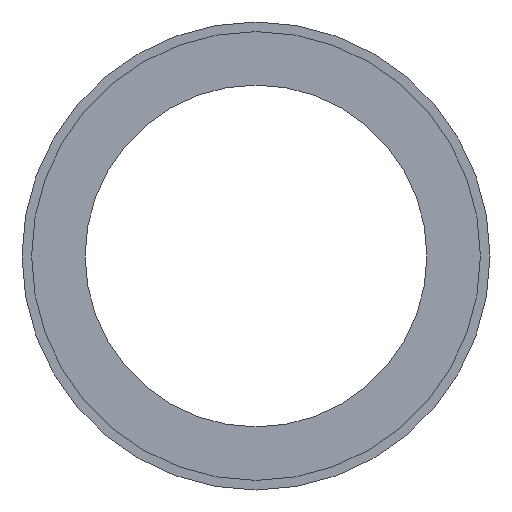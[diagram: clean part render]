
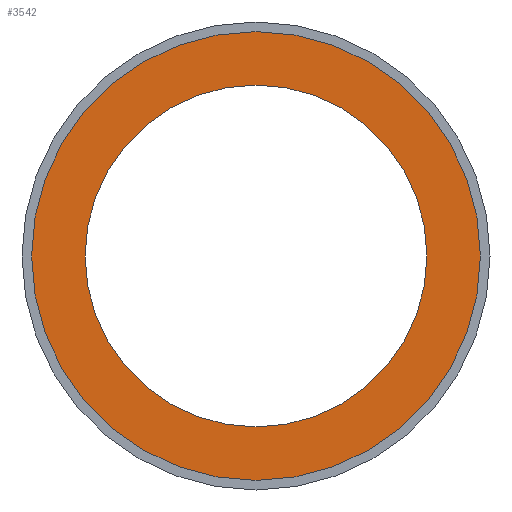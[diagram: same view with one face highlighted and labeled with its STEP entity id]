
A CAD part, front view. The second image highlights one B-rep face of the part: STEP entity #3542.
In plain terms, the highlighted planar face has unit normal (0, -1, 0).
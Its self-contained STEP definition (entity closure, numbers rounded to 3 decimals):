
#4 = DIRECTION ( 'NONE',  ( 0., 0., 1. ) ) ;
#114 = EDGE_CURVE ( 'NONE', #4386, #2119, #2419, .T. ) ;
#192 = AXIS2_PLACEMENT_3D ( 'NONE', #1646, #3604, #1287 ) ;
#238 = CARTESIAN_POINT ( 'NONE',  ( 0., -27., -80. ) ) ;
#273 = DIRECTION ( 'NONE',  ( 0., 0., -1. ) ) ;
#398 = DIRECTION ( 'NONE',  ( 0., 0., -1. ) ) ;
#557 = EDGE_LOOP ( 'NONE', ( #4615, #1687 ) ) ;
#695 = CARTESIAN_POINT ( 'NONE',  ( 0., -27., 0. ) ) ;
#1106 = EDGE_CURVE ( 'NONE', #1822, #2356, #4526, .T. ) ;
#1244 = AXIS2_PLACEMENT_3D ( 'NONE', #2303, #3862, #398 ) ;
#1287 = DIRECTION ( 'NONE',  ( 0., 0., -1. ) ) ;
#1453 = FACE_OUTER_BOUND ( 'NONE', #557, .T. ) ;
#1542 = EDGE_CURVE ( 'NONE', #2356, #1822, #4118, .T. ) ;
#1646 = CARTESIAN_POINT ( 'NONE',  ( 0., -27., 0. ) ) ;
#1687 = ORIENTED_EDGE ( 'NONE', *, *, #114, .T. ) ;
#1822 = VERTEX_POINT ( 'NONE', #4105 ) ;
#2049 = CARTESIAN_POINT ( 'NONE',  ( 0., -27., -105. ) ) ;
#2119 = VERTEX_POINT ( 'NONE', #2049 ) ;
#2228 = DIRECTION ( 'NONE',  ( 0., 0., -1. ) ) ;
#2303 = CARTESIAN_POINT ( 'NONE',  ( 0., -27., 0. ) ) ;
#2356 = VERTEX_POINT ( 'NONE', #238 ) ;
#2419 = CIRCLE ( 'NONE', #1244, 105. ) ;
#2466 = FACE_BOUND ( 'NONE', #4206, .T. ) ;
#2532 = AXIS2_PLACEMENT_3D ( 'NONE', #4476, #4082, #273 ) ;
#2663 = CARTESIAN_POINT ( 'NONE',  ( 0., -27., 80. ) ) ;
#2921 = AXIS2_PLACEMENT_3D ( 'NONE', #2663, #4520, #4 ) ;
#3132 = ORIENTED_EDGE ( 'NONE', *, *, #1106, .F. ) ;
#3135 = AXIS2_PLACEMENT_3D ( 'NONE', #695, #4521, #2228 ) ;
#3237 = EDGE_CURVE ( 'NONE', #2119, #4386, #3814, .T. ) ;
#3542 = ADVANCED_FACE ( 'NONE', ( #2466, #1453 ), #4950, .F. ) ;
#3604 = DIRECTION ( 'NONE',  ( 0., -1., 0. ) ) ;
#3814 = CIRCLE ( 'NONE', #192, 105. ) ;
#3862 = DIRECTION ( 'NONE',  ( 0., -1., 0. ) ) ;
#4082 = DIRECTION ( 'NONE',  ( 0., -1., 0. ) ) ;
#4105 = CARTESIAN_POINT ( 'NONE',  ( 0., -27., 80. ) ) ;
#4118 = CIRCLE ( 'NONE', #2532, 80. ) ;
#4206 = EDGE_LOOP ( 'NONE', ( #4867, #3132 ) ) ;
#4386 = VERTEX_POINT ( 'NONE', #4510 ) ;
#4476 = CARTESIAN_POINT ( 'NONE',  ( 0., -27., 0. ) ) ;
#4510 = CARTESIAN_POINT ( 'NONE',  ( 0., -27., 105. ) ) ;
#4520 = DIRECTION ( 'NONE',  ( 0., 1., 0. ) ) ;
#4521 = DIRECTION ( 'NONE',  ( 0., -1., 0. ) ) ;
#4526 = CIRCLE ( 'NONE', #3135, 80. ) ;
#4615 = ORIENTED_EDGE ( 'NONE', *, *, #3237, .T. ) ;
#4867 = ORIENTED_EDGE ( 'NONE', *, *, #1542, .F. ) ;
#4950 = PLANE ( 'NONE',  #2921 ) ;
